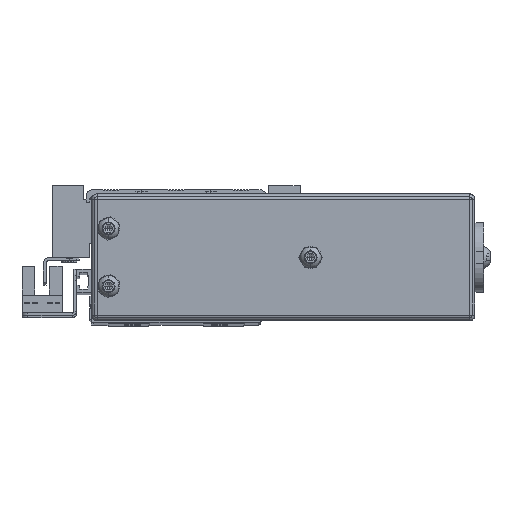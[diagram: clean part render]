
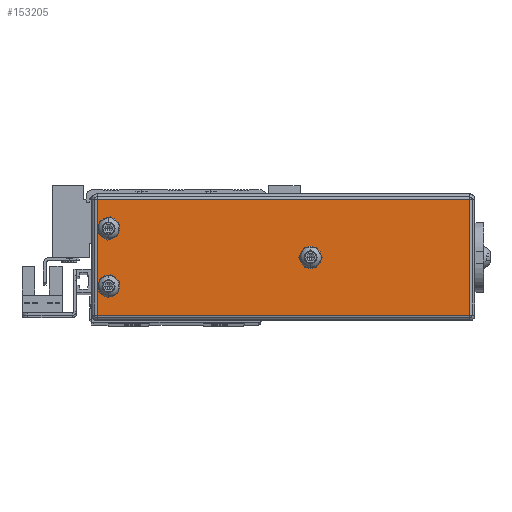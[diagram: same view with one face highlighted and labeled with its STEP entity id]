
A CAD part, top view. The second image highlights one B-rep face of the part: STEP entity #153205.
In plain terms, the highlighted planar face has unit normal (0, 0, 1).
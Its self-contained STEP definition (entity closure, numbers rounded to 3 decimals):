
#1816 = CARTESIAN_POINT ( 'NONE',  ( 14.839, -11.079, 163. ) ) ;
#2518 = EDGE_LOOP ( 'NONE', ( #2562, #116398 ) ) ;
#2562 = ORIENTED_EDGE ( 'NONE', *, *, #181964, .F. ) ;
#3526 = CARTESIAN_POINT ( 'NONE',  ( -110.161, 0.921, 163. ) ) ;
#6880 = CARTESIAN_POINT ( 'NONE',  ( -42.411, 10.921, 163. ) ) ;
#11448 = CIRCLE ( 'NONE', #59088, 2.25 ) ;
#19989 = AXIS2_PLACEMENT_3D ( 'NONE', #125478, #111166, #69126 ) ;
#21594 = VERTEX_POINT ( 'NONE', #131154 ) ;
#21894 = EDGE_CURVE ( 'NONE', #68071, #41242, #98119, .T. ) ;
#24680 = CARTESIAN_POINT ( 'NONE',  ( -112.411, 0.921, 163. ) ) ;
#25474 = CARTESIAN_POINT ( 'NONE',  ( -116.161, -9.079, 163. ) ) ;
#31124 = ORIENTED_EDGE ( 'NONE', *, *, #92032, .T. ) ;
#33004 = CIRCLE ( 'NONE', #116203, 2.25 ) ;
#34343 = CARTESIAN_POINT ( 'NONE',  ( -116.161, -11.079, 163. ) ) ;
#36769 = DIRECTION ( 'NONE',  ( 0., 0., 1. ) ) ;
#37574 = LINE ( 'NONE', #126392, #176911 ) ;
#41242 = VERTEX_POINT ( 'NONE', #161467 ) ;
#43911 = EDGE_CURVE ( 'NONE', #93164, #171705, #122560, .T. ) ;
#45420 = ORIENTED_EDGE ( 'NONE', *, *, #61607, .T. ) ;
#49999 = FACE_BOUND ( 'NONE', #2518, .T. ) ;
#57023 = VERTEX_POINT ( 'NONE', #69270 ) ;
#59088 = AXIS2_PLACEMENT_3D ( 'NONE', #176877, #104611, #133129 ) ;
#61386 = DIRECTION ( 'NONE',  ( 0., 0., 1. ) ) ;
#61607 = EDGE_CURVE ( 'NONE', #167527, #21594, #125576, .T. ) ;
#61809 = VECTOR ( 'NONE', #80414, 1000. ) ;
#62800 = VERTEX_POINT ( 'NONE', #6880 ) ;
#62813 = CARTESIAN_POINT ( 'NONE',  ( -114.161, 30.921, 163. ) ) ;
#63149 = AXIS2_PLACEMENT_3D ( 'NONE', #3526, #61386, #74422 ) ;
#66910 = EDGE_CURVE ( 'NONE', #21594, #180542, #37574, .T. ) ;
#68071 = VERTEX_POINT ( 'NONE', #103002 ) ;
#68544 = ORIENTED_EDGE ( 'NONE', *, *, #99989, .F. ) ;
#69126 = DIRECTION ( 'NONE',  ( 1., 0., 0. ) ) ;
#69270 = CARTESIAN_POINT ( 'NONE',  ( -114.161, -9.079, 163. ) ) ;
#70395 = EDGE_LOOP ( 'NONE', ( #45420, #175567, #178473, #31124 ) ) ;
#71013 = EDGE_LOOP ( 'NONE', ( #68544, #148908 ) ) ;
#72678 = CARTESIAN_POINT ( 'NONE',  ( -110.161, 20.921, 163. ) ) ;
#74422 = DIRECTION ( 'NONE',  ( 1., 0., 0. ) ) ;
#80414 = DIRECTION ( 'NONE',  ( 1., 0., 0. ) ) ;
#80529 = AXIS2_PLACEMENT_3D ( 'NONE', #122080, #36769, #164050 ) ;
#83074 = DIRECTION ( 'NONE',  ( -1., 0., 0. ) ) ;
#83794 = CIRCLE ( 'NONE', #80529, 2.25 ) ;
#87865 = VECTOR ( 'NONE', #141374, 1000. ) ;
#87905 = AXIS2_PLACEMENT_3D ( 'NONE', #174752, #147009, #103670 ) ;
#90578 = DIRECTION ( 'NONE',  ( 0., -1., 0. ) ) ;
#92032 = EDGE_CURVE ( 'NONE', #57023, #167527, #154843, .T. ) ;
#93164 = VERTEX_POINT ( 'NONE', #109777 ) ;
#98108 = EDGE_LOOP ( 'NONE', ( #136783, #125716 ) ) ;
#98119 = CIRCLE ( 'NONE', #19989, 2.25 ) ;
#99989 = EDGE_CURVE ( 'NONE', #167797, #62800, #83794, .T. ) ;
#102908 = DIRECTION ( 'NONE',  ( 1., 0., 0. ) ) ;
#103002 = CARTESIAN_POINT ( 'NONE',  ( -112.411, 20.921, 163. ) ) ;
#103670 = DIRECTION ( 'NONE',  ( 1., 0., 0. ) ) ;
#104611 = DIRECTION ( 'NONE',  ( 0., 0., 1. ) ) ;
#106453 = EDGE_CURVE ( 'NONE', #62800, #167797, #11448, .T. ) ;
#109777 = CARTESIAN_POINT ( 'NONE',  ( -107.911, 0.921, 163. ) ) ;
#111166 = DIRECTION ( 'NONE',  ( 0., 0., 1. ) ) ;
#116203 = AXIS2_PLACEMENT_3D ( 'NONE', #72678, #145005, #102908 ) ;
#116398 = ORIENTED_EDGE ( 'NONE', *, *, #21894, .F. ) ;
#119602 = DIRECTION ( 'NONE',  ( 0., 0., -1. ) ) ;
#120337 = CARTESIAN_POINT ( 'NONE',  ( -114.161, -11.079, 163. ) ) ;
#122080 = CARTESIAN_POINT ( 'NONE',  ( -40.161, 10.921, 163. ) ) ;
#122560 = CIRCLE ( 'NONE', #63149, 2.25 ) ;
#125478 = CARTESIAN_POINT ( 'NONE',  ( -110.161, 20.921, 163. ) ) ;
#125576 = LINE ( 'NONE', #1816, #87865 ) ;
#125716 = ORIENTED_EDGE ( 'NONE', *, *, #151114, .F. ) ;
#126392 = CARTESIAN_POINT ( 'NONE',  ( -116.161, 30.921, 163. ) ) ;
#131079 = VECTOR ( 'NONE', #90578, 1000. ) ;
#131154 = CARTESIAN_POINT ( 'NONE',  ( 14.839, 30.921, 163. ) ) ;
#133129 = DIRECTION ( 'NONE',  ( 1., 0., 0. ) ) ;
#136783 = ORIENTED_EDGE ( 'NONE', *, *, #43911, .F. ) ;
#138547 = FACE_BOUND ( 'NONE', #71013, .T. ) ;
#141374 = DIRECTION ( 'NONE',  ( 0., 1., 0. ) ) ;
#145005 = DIRECTION ( 'NONE',  ( 0., 0., 1. ) ) ;
#145591 = DIRECTION ( 'NONE',  ( -1., 0., 0. ) ) ;
#147009 = DIRECTION ( 'NONE',  ( 0., 0., 1. ) ) ;
#147997 = PLANE ( 'NONE',  #167800 ) ;
#148583 = LINE ( 'NONE', #120337, #131079 ) ;
#148908 = ORIENTED_EDGE ( 'NONE', *, *, #106453, .F. ) ;
#151114 = EDGE_CURVE ( 'NONE', #171705, #93164, #182267, .T. ) ;
#153205 = ADVANCED_FACE ( 'NONE', ( #138547, #176080, #49999, #180357 ), #147997, .F. ) ;
#153826 = CARTESIAN_POINT ( 'NONE',  ( -37.911, 10.921, 163. ) ) ;
#154843 = LINE ( 'NONE', #25474, #61809 ) ;
#159608 = EDGE_CURVE ( 'NONE', #180542, #57023, #148583, .T. ) ;
#161467 = CARTESIAN_POINT ( 'NONE',  ( -107.911, 20.921, 163. ) ) ;
#164050 = DIRECTION ( 'NONE',  ( 1., 0., 0. ) ) ;
#167527 = VERTEX_POINT ( 'NONE', #174833 ) ;
#167797 = VERTEX_POINT ( 'NONE', #153826 ) ;
#167800 = AXIS2_PLACEMENT_3D ( 'NONE', #34343, #119602, #145591 ) ;
#171705 = VERTEX_POINT ( 'NONE', #24680 ) ;
#174752 = CARTESIAN_POINT ( 'NONE',  ( -110.161, 0.921, 163. ) ) ;
#174833 = CARTESIAN_POINT ( 'NONE',  ( 14.839, -9.079, 163. ) ) ;
#175567 = ORIENTED_EDGE ( 'NONE', *, *, #66910, .T. ) ;
#176080 = FACE_BOUND ( 'NONE', #98108, .T. ) ;
#176877 = CARTESIAN_POINT ( 'NONE',  ( -40.161, 10.921, 163. ) ) ;
#176911 = VECTOR ( 'NONE', #83074, 1000. ) ;
#178473 = ORIENTED_EDGE ( 'NONE', *, *, #159608, .T. ) ;
#180357 = FACE_OUTER_BOUND ( 'NONE', #70395, .T. ) ;
#180542 = VERTEX_POINT ( 'NONE', #62813 ) ;
#181964 = EDGE_CURVE ( 'NONE', #41242, #68071, #33004, .T. ) ;
#182267 = CIRCLE ( 'NONE', #87905, 2.25 ) ;
